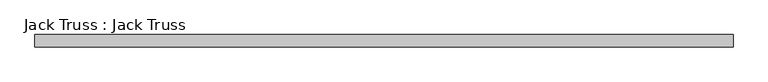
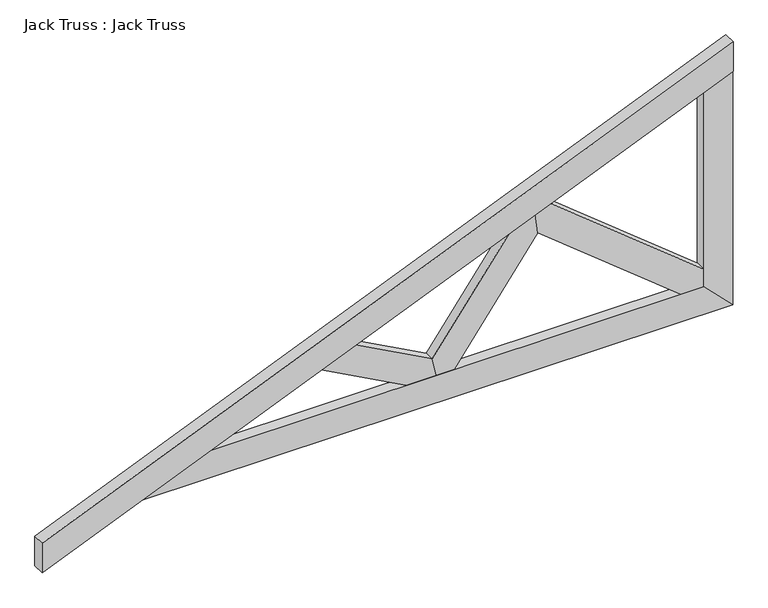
"""IFC4 building model written with IfcOpenShell, lengths in millimetres: beam geometry, Jack Truss : Jack Truss."""

from ifc_helpers import new_model, si_unit, origin, place, context, project, spatial, faceted_brep, source, transform, mapped, element, save


def jack_truss_jack_truss_af965fa6(model_context):
    return source(origin(), model_context, "Body", "Brep", [
        faceted_brep([(1805.1213896, -192.268471, 444.1046972), (2246.4363164, -192.268471, 88.9), (2317.328395, -192.268471, 88.9), (2317.328395, -192.268471, 145.9594778), (1843.3393153, -192.268471, 527.4628835), (1796.628395, -192.268471, 508.0), (1805.1213896, -160.518471, 444.1046972), (2246.4363164, -160.518471, 88.9), (1796.628395, -160.518471, 508.0), (1843.3393153, -160.518471, 527.4628835), (2317.328395, -160.518471, 145.9594778), (2317.328395, -160.518471, 88.9), (1478.7738905, -192.268471, 146.5232269), (1491.828395, -192.268471, 88.9), (1546.7907008, -192.268471, 88.9), (1717.7694344, -192.268471, 475.1420998), (1546.7907008, -160.518471, 88.9), (1491.828395, -160.518471, 88.9), (1478.7738905, -160.518471, 146.5232269), (1717.7694344, -160.518471, 475.1420998), (1239.7783466, -192.268471, 275.9791465), (1134.2784433, -192.268471, 232.0208535), (1398.5015575, -192.268471, 88.9), (1398.5015575, -160.518471, 88.9), (1134.2784433, -160.518471, 232.0208535), (1239.7783466, -160.518471, 275.9791465), (2317.328395, -193.855971, 88.9), (2317.328395, -158.930971, 88.9), (790.788395, -158.930971, 88.9), (790.788395, -193.855971, 88.9), (2406.228395, -158.930971, 0.0), (577.428395, -158.930971, 0.0), (2406.228395, -193.855971, 0.0), (577.428395, -193.855971, 0.0), (2317.328395, -193.855971, 724.9583333), (2317.328395, -158.930971, 724.9583333), (2406.228395, -158.930971, 762.0), (2406.228395, -157.343471, 762.0), (2406.228395, -157.343471, 858.3083333), (2406.228395, -195.443471, 858.3083333), (2406.228395, -195.443471, 762.0), (2406.228395, -193.855971, 762.0), (272.628395, -195.443471, -127.0), (272.628395, -195.443471, -30.6916667), (272.628395, -157.343471, -127.0), (272.628395, -157.343471, -30.6916667)], [[[0, 1, 2, 3, 4, 5]], [[0, 6, 7, 1]], [[7, 6, 8, 9, 10, 11]], [[3, 10, 9, 4]], [[12, 13, 14, 0, 5, 15]], [[6, 0, 14, 16]], [[6, 16, 17, 18, 19, 8]], [[18, 12, 15, 19]], [[13, 12, 20, 21, 22]], [[23, 22, 21, 24]], [[18, 17, 23, 24, 25]], [[12, 18, 25, 20]], [[26, 2, 1, 7, 11, 27, 28, 29], [14, 13, 22, 23, 17, 16]], [[27, 30, 31, 28]], [[31, 30, 32, 33]], [[33, 32, 26, 29]], [[2, 26, 34, 35, 27, 11, 10, 3]], [[30, 27, 35, 36]], [[32, 30, 36, 37, 38, 39, 40, 41]], [[26, 32, 41, 34]], [[42, 40, 39, 43]], [[44, 45, 38, 37]], [[40, 42, 44, 37, 36, 35, 34, 41], [5, 4, 9, 8, 19, 15], [21, 20, 25, 24], [29, 28, 31, 33]], [[43, 39, 38, 45]], [[42, 43, 45, 44]]]),
    ])


if __name__ == "__main__":
    model = new_model("IFC4")
    model_context = context("Model", 3, world=origin())
    ifc_project = project(units=[si_unit("LENGTHUNIT", "METRE", prefix="MILLI")], contexts=[model_context])
    site = spatial("IfcSite", under=ifc_project)
    building = spatial("IfcBuilding", under=site)
    placement = place(None, origin())
    jack_truss_jack_truss_shape = jack_truss_jack_truss_af965fa6(model_context)
    element("IfcBeam", 1, ObjectType="Jack Truss : Jack Truss", at=placement, inside=building, context=model_context, shape_type="MappedRepresentation", body=[
        mapped(jack_truss_jack_truss_shape, transform((0.0, 0.0, 0.0), x_axis=(1.0, 0.0, 0.0), y_axis=(0.0, 1.0, 0.0), z_axis=(0.0, 0.0, 1.0))),
    ])
    save(model, "model.ifc")
